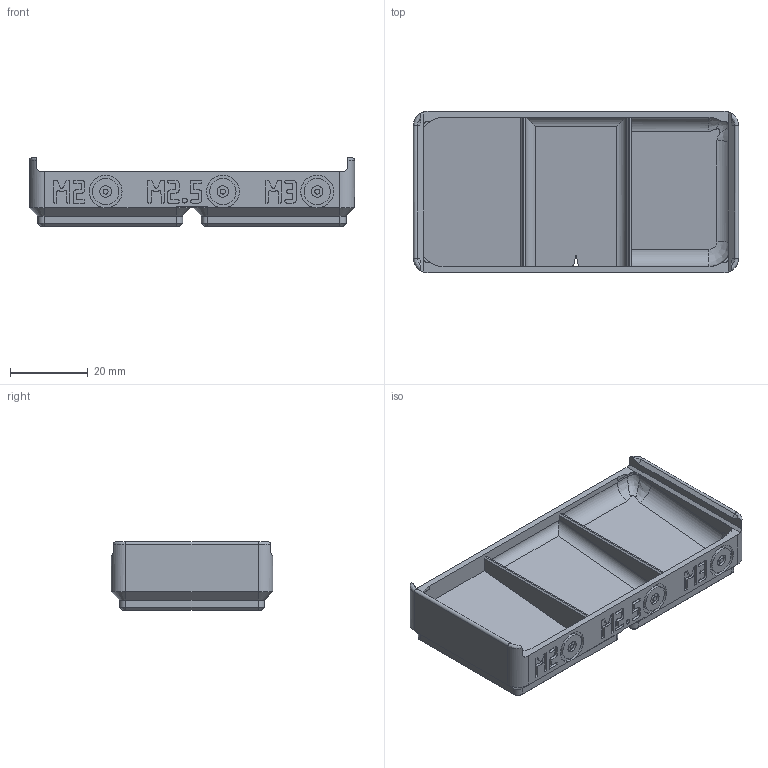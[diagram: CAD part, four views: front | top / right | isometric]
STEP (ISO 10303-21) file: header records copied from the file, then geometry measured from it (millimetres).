
FILE_DESCRIPTION(('Open CASCADE Model'),'2;1');
FILE_NAME('Open CASCADE Shape Model','2026-11-03T17:57:17',('Author'),( 'Open CASCADE'),'Open CASCADE STEP processor 8.0','build123d', 'Unknown');
FILE_SCHEMA(('AUTOMOTIVE_DESIGN { 1 0 10303 214 1 1 1 1 }'));
Products named in the file (1): COMPOUND
Bounding box: 83.5 x 41.5 x 17.55 mm (x, y, z)
Volume: 25034.8 mm3; surface area: 13253.2 mm2
Topology: 1 solids, 1 shells, 1015 faces, 2918 edges, 1920 vertices
Faces by surface type: plane 932, cylinder 51, cone 24, bspline 8
Full cylindrical faces by diameter (mm): 1.28 x3, 2.96 x3, 6.76 x3, 8.44 x3
Entity records: 69898 total; most frequent: CARTESIAN_POINT 15209, DIRECTION 8890, LINE 6591, VECTOR 6591, ORIENTED_EDGE 5836, PCURVE 5836, DEFINITIONAL_REPRESENTATION 5836, EDGE_CURVE 2918
